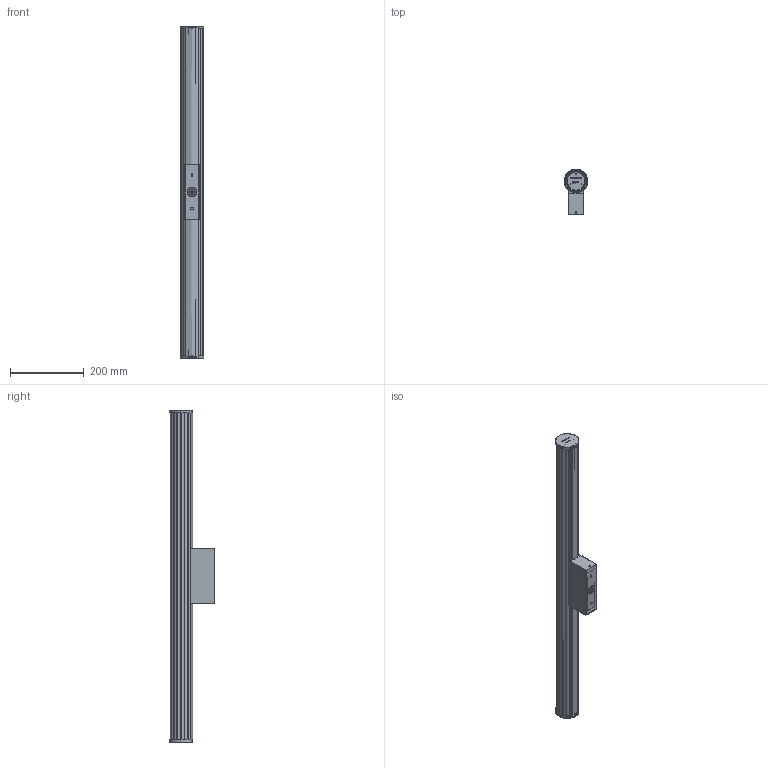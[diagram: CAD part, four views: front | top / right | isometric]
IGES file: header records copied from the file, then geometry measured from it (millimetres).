
Start section: SolidWorks IGES file using analytic representation for surfaces
Global section: file name: \\srvficheros\grupos\DISENYO\DESARROLLO DE PRODUCTO\_3D_WEB\SARA-A3991171\SARA-A3991171.IGS; native system: SolidWorks 2025; preprocessor: SolidWorks 2025; author: d.pons; date: 260115.085837; units: millimetre
Bounding box: 63.5 x 123.5 x 901 mm (x, y, z)
Surface area: 741317.9 mm2 (no closed solid volume)
Topology: 0 solids, 0 shells, 808 faces, 10290 edges, 10264 vertices
Faces by surface type: bspline 530, revolution 278
